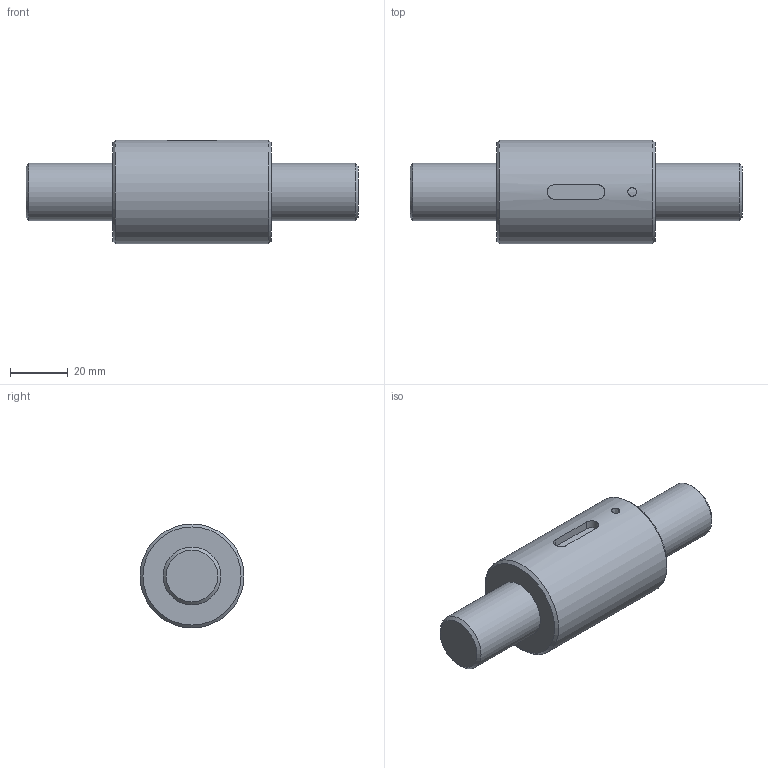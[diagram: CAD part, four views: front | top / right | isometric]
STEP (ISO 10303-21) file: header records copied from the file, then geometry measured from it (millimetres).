
FILE_DESCRIPTION(/* description */ (''),/* implementation_level */ '2;1');
FILE_NAME(/* name */ 'SCNH2020.stp',/* time_stamp */ '2016-07-18T13:29:17+08:00',/* author */ (''),/* organization */ (''),/* preprocessor_version */ 'ST-DEVELOPER v11',/* originating_system */ 'SIEMENS UGS NX 6.0',/* authorisation */ '');
FILE_SCHEMA (('CONFIG_CONTROL_DESIGN'));
Length unit declared in the file: millimetre
Products named in the file (1): didi6F95hpk2
Bounding box: 115 x 36 x 36 mm (x, y, z)
Volume: 74326.1 mm3; surface area: 18917.7 mm2
Topology: 2 solids, 2 shells, 18 faces, 35 edges, 22 vertices
Faces by surface type: plane 7, cylinder 5, cone 4, extrusion 2
Full cylindrical faces by diameter (mm): 20 x2, 36 x1
Entity records: 688 total; most frequent: CARTESIAN_POINT 253, DIRECTION 70, ORIENTED_EDGE 56, EDGE_LOOP 30, AXIS2_PLACEMENT_3D 29, EDGE_CURVE 28, VERTEX_POINT 22, FACE_BOUND 21
